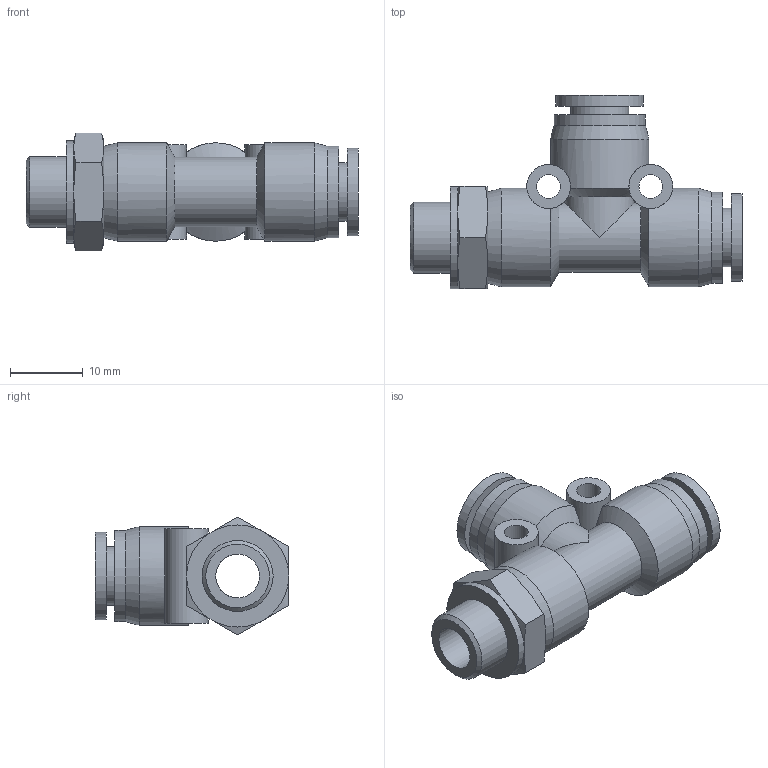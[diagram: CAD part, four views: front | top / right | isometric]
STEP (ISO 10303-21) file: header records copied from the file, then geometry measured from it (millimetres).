
FILE_DESCRIPTION((''),'2;1');
FILE_NAME('S:\UTecnico\ArchivioUT\Speciali Clienti\Speciali KONFIT\Plastica\RP\06\RP 71\RP711806.stp','2012-05-07T10:18:58',('UT5'),(''),'Autodesk Inventor 2012','Autodesk Inventor 2012','');
FILE_SCHEMA(('AUTOMOTIVE_DESIGN { 1 0 10303 214 1 1 1 1 }'));
Length unit declared in the file: millimetre
Products named in the file (1): RP711806
Bounding box: 45.5 x 26.5 x 16.17 mm (x, y, z)
Volume: 5496.3 mm3; surface area: 4527.7 mm2
Topology: 1 solids, 1 shells, 58 faces, 137 edges, 85 vertices
Faces by surface type: cone 20, cylinder 19, plane 19
Full cylindrical faces by diameter (mm): 3.25 x2, 6 x4, 8 x2, 9.5 x2, 9.728 x1, 12 x2, 12.5 x2, 13.5 x3, 14 x1
Entity records: 1696 total; most frequent: CARTESIAN_POINT 511, DIRECTION 234, ORIENTED_EDGE 202, AXIS2_PLACEMENT_3D 114, EDGE_CURVE 101, EDGE_LOOP 100, VERTEX_POINT 75, FACE_OUTER_BOUND 58
